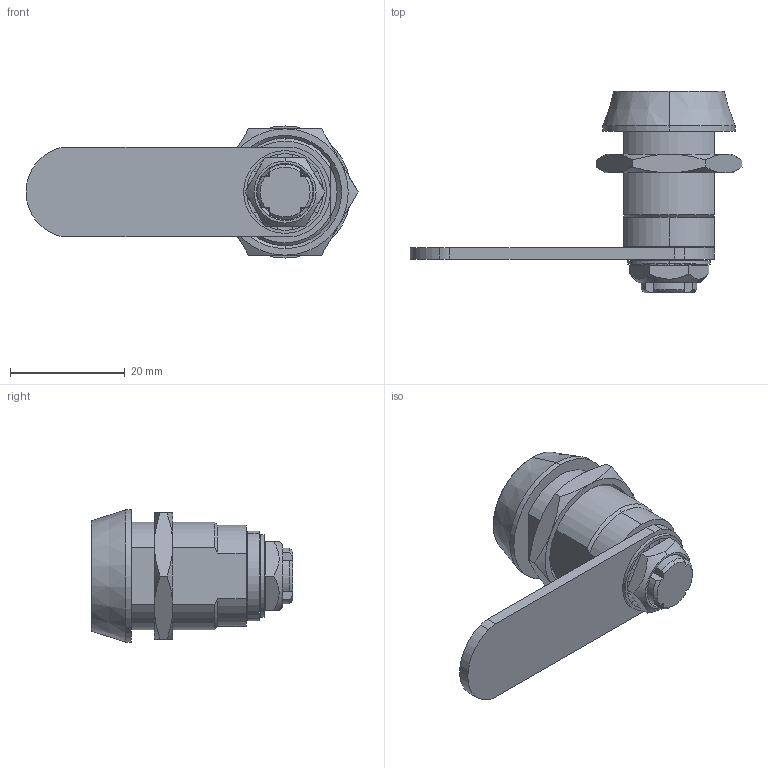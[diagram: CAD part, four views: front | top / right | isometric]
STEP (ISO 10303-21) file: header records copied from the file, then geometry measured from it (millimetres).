
FILE_DESCRIPTION (( 'STEP AP214' ), '1' );
FILE_NAME ('Z2106_H20.STEP', '2016-08-22T09:06:46', ( 'Krzysiek' ), ( '' ), 'SwSTEP 2.0', 'SolidWorks 2015', '' );
FILE_SCHEMA (( 'AUTOMOTIVE_DESIGN' ));
Length unit declared in the file: millimetre
Products named in the file (8): Z2106_H20; Wk-adka 25001; 2.Z2106.001.06_67984I 84-mattssons; 2.Z2106.001.05_A; 2.Z2106.001.04_A; 2.Z2106.001.03_A; 2.Z2106.001.02_H20; 2.Z2106.001.01
Assembly tree (7 placements, depth 2):
  Z2106_H20
    2.Z2106.001.01
    2.Z2106.001.02_H20
    2.Z2106.001.03_A
    2.Z2106.001.04_A
    2.Z2106.001.05_A
    2.Z2106.001.06_67984I 84-mattssons
    Wk-adka 25001
Bounding box: 57.8 x 35.1 x 23 mm (x, y, z)
Volume: 8460 mm3; surface area: 9278.3 mm2
Topology: 7 solids, 7 shells, 297 faces, 789 edges, 507 vertices
Faces by surface type: plane 141, cylinder 84, bspline 40, cone 32
Entity records: 11628 total; most frequent: CARTESIAN_POINT 4081, ORIENTED_EDGE 1578, DIRECTION 1422, EDGE_CURVE 789, VERTEX_POINT 507, AXIS2_PLACEMENT_3D 496, VECTOR 430, LINE 430
